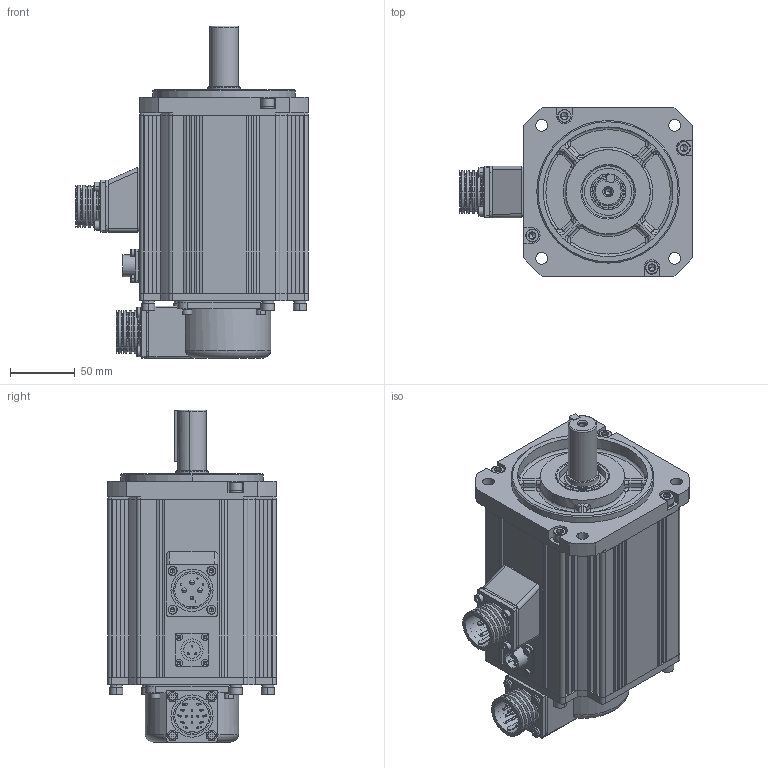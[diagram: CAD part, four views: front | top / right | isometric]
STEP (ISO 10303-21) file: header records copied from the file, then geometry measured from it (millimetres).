
FILE_DESCRIPTION((''),'2;1');
FILE_NAME('SV-MM13-1R5E-X-XA4-1000_ASM_ASM','2019-12-11T',('JWDQ'),(''),'CREO PARAMETRIC BY PTC INC, 2014050','CREO PARAMETRIC BY PTC INC, 2014050','');
FILE_SCHEMA(('CONFIG_CONTROL_DESIGN'));
Products named in the file (35): SV130BZ-ZHOU_1_1_2_3_4_5_AF0; SV130BZ-ZZ-1_ASM_1_1_2_3_4__AF0_ASM; SV130BZ-ZZ-2_ASM_1_1_2_3_4__AF0_ASM; 80100020-1_1_1_2_3_4_5; SV130BZ-HG_ASM_1_1_2_3_4_5_ASM; SV130BZ-ZHUANZ_ASM_1_1_2_3__AF1_ASM; SV130BZ-K_1_1_2_3_4_5; 513704090100_1_1_2_3_4_5_6_7_13; 046770000100_1_1_2_3_4_5_6_7_12; 80750004_1_1_2_3_4_5_6_7_8_9_13; 78400020_1_1_2_3_4_5_6_7_8_9_13; GBT93-4_1_1_2_3_4_5_6_7_8_9_10; GBT7R1-4X35_1_1_2_3_4_5_6_7__11; S-YD28-4_ASM_1_1_2_3_4_5_6_7_11_ASM; SV130BZ-DZ-1_ASM_1_1_2_3_4_5_ASM; SV130BZ-DINGZ_ASM_1_1_2_3_4_5_ASM; 80100007_1_1_2_3_4_5_6_7_8_9_13; 730030000200_1_1_2_3_4_5_6_7_13; SV130-QG_ASM_1_1_2_3_4_5_6_7_11_ASM; 82340004_1_1_2_3_4_5_6_7_8_9_13; 046770000100_1; 513715090100_1_1_2_3_4_5_6_7_13; 78400019_1_1_2_3_4_5_6_7_8_9_13; GBT93-4_1; GBT70R1-4X12_1_1_2_3_4_5_6_7_11; M4X16_1_1_2_3_4_5_6_7_8_9_10_13; TS5214_ASM_1_1_2_3_4_5_6_7_8_10_ASM; GBT93-6_1_1_2_3_4_5_6_7_8_9__11; GBT7R1-M6X16_1_1_2_3_4_5_6_7_11; GBT1095-6X6-41_1_1_2_3_4_5; XS16-3P_1_1_2_3_4_5; GB93-3_1_1_2_3_4_5_6; GBT7R1-3X8_1_1_2_3_4_5_6; SV130-BZ_ASM_2_1_2_3_4_AF0_ASM; SV-MM13-1R5E-X-XA4-1000_ASM_ASM
Assembly tree (73 placements, depth 6):
  SV-MM13-1R5E-X-XA4-1000_ASM_ASM
    SV130-BZ_ASM_2_1_2_3_4_AF0_ASM
      SV130BZ-ZHUANZ_ASM_1_1_2_3__AF1_ASM
        SV130BZ-ZZ-2_ASM_1_1_2_3_4__AF0_ASM
          SV130BZ-ZZ-1_ASM_1_1_2_3_4__AF0_ASM
            SV130BZ-ZHOU_1_1_2_3_4_5_AF0
        SV130BZ-HG_ASM_1_1_2_3_4_5_ASM
          80100020-1_1_1_2_3_4_5
      SV130BZ-DINGZ_ASM_1_1_2_3_4_5_ASM
        SV130BZ-DZ-1_ASM_1_1_2_3_4_5_ASM
          SV130BZ-K_1_1_2_3_4_5
          S-YD28-4_ASM_1_1_2_3_4_5_6_7_11_ASM
            513704090100_1_1_2_3_4_5_6_7_13
            046770000100_1_1_2_3_4_5_6_7_12
            80750004_1_1_2_3_4_5_6_7_8_9_13
            78400020_1_1_2_3_4_5_6_7_8_9_13
            GBT93-4_1_1_2_3_4_5_6_7_8_9_10  x4
            GBT7R1-4X35_1_1_2_3_4_5_6_7__11  x4
      SV130-QG_ASM_1_1_2_3_4_5_6_7_11_ASM
        80100007_1_1_2_3_4_5_6_7_8_9_13
        730030000200_1_1_2_3_4_5_6_7_13
      TS5214_ASM_1_1_2_3_4_5_6_7_8_10_ASM
        82340004_1_1_2_3_4_5_6_7_8_9_13
        046770000100_1
        513715090100_1_1_2_3_4_5_6_7_13
        78400019_1_1_2_3_4_5_6_7_8_9_13
        GBT93-4_1  x8
        GBT70R1-4X12_1_1_2_3_4_5_6_7_11  x4
        M4X16_1_1_2_3_4_5_6_7_8_9_10_13  x4
      GBT93-6_1_1_2_3_4_5_6_7_8_9__11  x8
      GBT7R1-M6X16_1_1_2_3_4_5_6_7_11  x8
      GBT1095-6X6-41_1_1_2_3_4_5
      XS16-3P_1_1_2_3_4_5
      GB93-3_1_1_2_3_4_5_6  x4
      GBT7R1-3X8_1_1_2_3_4_5_6  x4
Bounding box: 179.5 x 130 x 256 mm (x, y, z)
Volume: 967981 mm3; surface area: 396023.8 mm2
Topology: 63 solids, 84 shells, 3433 faces, 8869 edges, 5730 vertices
Faces by surface type: plane 1988, cylinder 858, cone 430, torus 100, bspline 31, sphere 26
Entity records: 104646 total; most frequent: CARTESIAN_POINT 17102, DIRECTION 14710, ORIENTED_EDGE 14306, EDGE_CURVE 7163, AXIS2_PLACEMENT_3D 4935, VECTOR 4840, LINE 4840, VERTEX_POINT 4747
